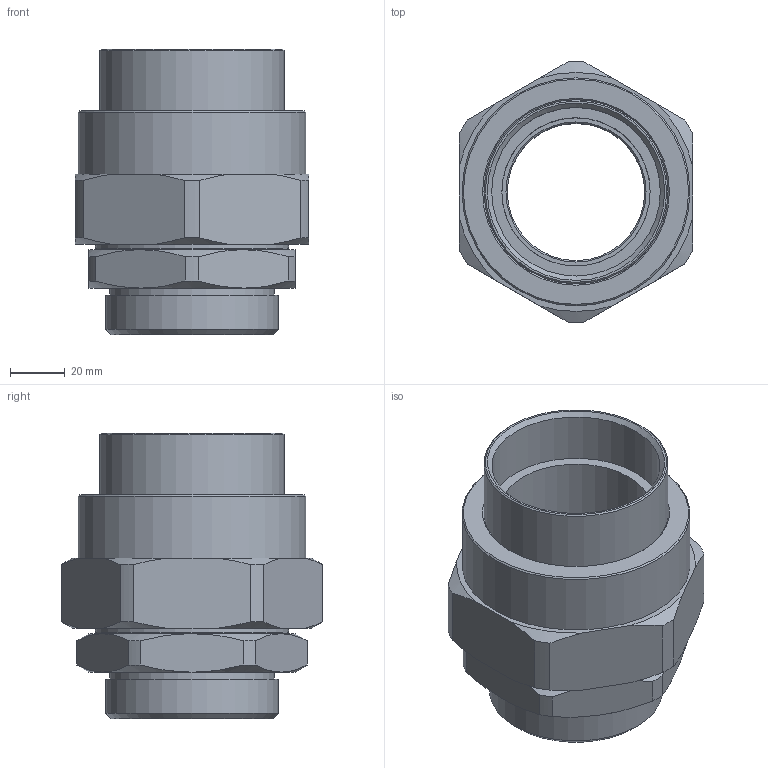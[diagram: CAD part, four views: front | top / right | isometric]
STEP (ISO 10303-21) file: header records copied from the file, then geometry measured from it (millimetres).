
FILE_DESCRIPTION((''),'2;1');
FILE_NAME('C:\_Action\Готовые чертежи\2021\_05_21\тз65313\TCBHA6MН.stp','2021-05-13T10:30:50',('Yu.F.Turkin'),(''),'Autodesk Inventor 2012','Autodesk Inventor 2012','');
FILE_SCHEMA(('AUTOMOTIVE_DESIGN { 1 0 10303 214 1 1 1 1 }'));
Length unit declared in the file: millimetre
Products named in the file (5): TCBHA (параметрика); Корпус TCBHA6MS; Гайка TCBHA6_S; Штуцер F TCBHA6MS; Уплотнение TCBHA6_
Assembly tree (4 placements, depth 2):
  TCBHA (параметрика)
    Корпус TCBHA6MS
    Гайка TCBHA6_S
    Штуцер F TCBHA6MS
    Уплотнение TCBHA6_
Bounding box: 85 x 94.98 x 104 mm (x, y, z)
Volume: 253748.3 mm3; surface area: 79961.8 mm2
Topology: 4 solids, 4 shells, 105 faces, 248 edges, 157 vertices
Faces by surface type: plane 38, cone 35, cylinder 31, torus 1
Full cylindrical faces by diameter (mm): 50 x1, 54 x2, 60 x1, 61.376 x1, 63 x1, 67 x2, 70 x1, 70.3 x1, 70.376 x1, 72 x1, 83 x1
Entity records: 3075 total; most frequent: CARTESIAN_POINT 576, DIRECTION 498, ORIENTED_EDGE 432, AXIS2_PLACEMENT_3D 216, EDGE_CURVE 216, VERTEX_POINT 150, EDGE_LOOP 144, STYLED_ITEM 109
